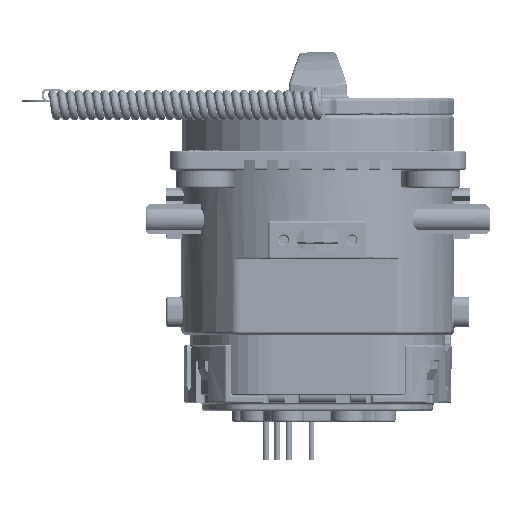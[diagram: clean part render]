
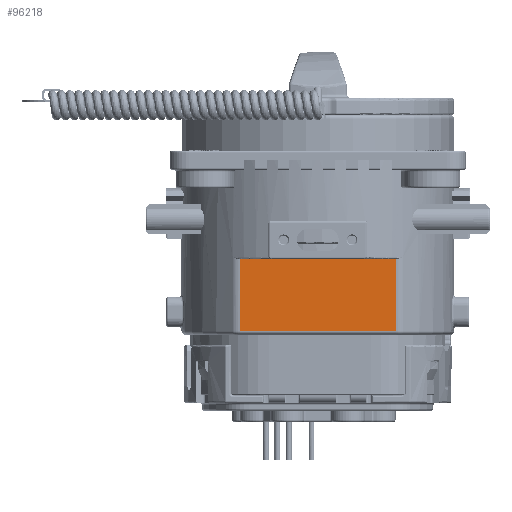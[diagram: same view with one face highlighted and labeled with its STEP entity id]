
A CAD part, front view. The second image highlights one B-rep face of the part: STEP entity #96218.
In plain terms, the highlighted planar face has unit normal (0, -1, 0).
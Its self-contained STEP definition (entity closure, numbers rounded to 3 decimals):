
#3545=DIRECTION('',(-1.,0.,0.));
#3546=VECTOR('',#3545,41.151);
#3547=CARTESIAN_POINT('',(20.585,-176.13,36.232));
#3548=LINE('',#3547,#3546);
#3660=DIRECTION('',(1.,0.,0.));
#3661=VECTOR('',#3660,41.151);
#3662=CARTESIAN_POINT('',(-20.566,-176.13,
17.232));
#3663=LINE('',#3662,#3661);
#3664=DIRECTION('',(0.,0.,1.));
#3665=VECTOR('',#3664,19.);
#3666=CARTESIAN_POINT('',(-20.566,-176.13,
17.232));
#3667=LINE('',#3666,#3665);
#3668=DIRECTION('',(0.,0.,1.));
#3669=VECTOR('',#3668,19.);
#3670=CARTESIAN_POINT('',(20.585,-176.13,17.232));
#3671=LINE('',#3670,#3669);
#80061=CARTESIAN_POINT('',(-20.566,-176.13,
36.232));
#80063=VERTEX_POINT('',#80061);
#80064=CARTESIAN_POINT('',(20.585,-176.13,
36.232));
#80066=VERTEX_POINT('',#80064);
#80068=CARTESIAN_POINT('',(-20.566,-176.13,
17.232));
#80069=VERTEX_POINT('',#80068);
#80072=CARTESIAN_POINT('',(20.585,-176.13,
17.232));
#80073=VERTEX_POINT('',#80072);
#96206=CARTESIAN_POINT('',(21.609,-176.13,
36.232));
#96207=DIRECTION('',(0.,-1.,0.));
#96208=DIRECTION('',(-1.,0.,0.));
#96209=AXIS2_PLACEMENT_3D('',#96206,#96207,#96208);
#96210=PLANE('',#96209);
#96211=ORIENTED_EDGE('',*,*,#96194,.F.);
#96213=ORIENTED_EDGE('',*,*,#96212,.T.);
#96214=ORIENTED_EDGE('',*,*,#96012,.F.);
#96215=ORIENTED_EDGE('',*,*,#96155,.F.);
#96216=EDGE_LOOP('',(#96211,#96213,#96214,#96215));
#96217=FACE_OUTER_BOUND('',#96216,.F.);
#96218=ADVANCED_FACE('',(#96217),#96210,.T.);
#96012=EDGE_CURVE('',#80066,#80063,#3548,.T.);
#96155=EDGE_CURVE('',#80073,#80066,#3671,.T.);
#96194=EDGE_CURVE('',#80069,#80073,#3663,.T.);
#96212=EDGE_CURVE('',#80069,#80063,#3667,.T.);
